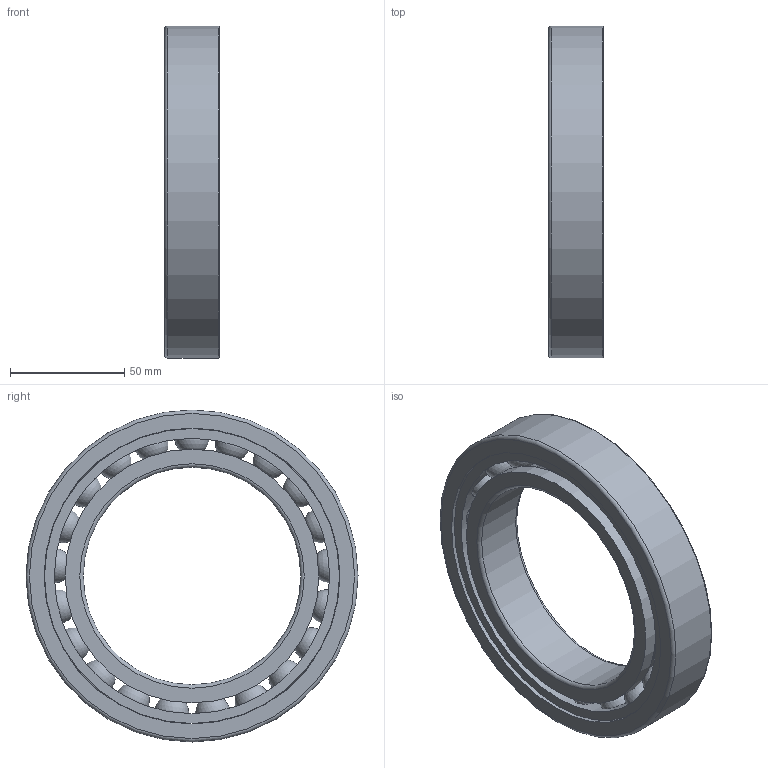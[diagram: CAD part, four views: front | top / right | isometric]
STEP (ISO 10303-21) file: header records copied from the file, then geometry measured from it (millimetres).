
FILE_DESCRIPTION(/* description */ (''),/* implementation_level */ '2;1');
FILE_NAME(/* name */ 'S_6019_TA.step',/* time_stamp */ '2013-03-06T14:43:36+01:00',/* author */ ('Marian'),/* organization */ ('GMN'),/* preprocessor_version */ 'ST-DEVELOPER v11',/* originating_system */ 'SIEMENS UGS NX 6.0',/* authorisation */ '');
FILE_SCHEMA (('CONFIG_CONTROL_DESIGN'));
Length unit declared in the file: millimetre
Products named in the file (1): S_6019_TA
Bounding box: 24 x 145 x 145 mm (x, y, z)
Volume: 170343.4 mm3; surface area: 78593.7 mm2
Topology: 24 solids, 24 shells, 62 faces, 160 edges, 104 vertices
Faces by surface type: cylinder 28, sphere 21, torus 6, plane 6, cone 1
Full cylindrical faces by diameter (mm): 15.281 x21, 95 x1, 110.8 x2, 120.301 x1, 128.8 x1, 129.2 x1, 145 x1
Entity records: 2052 total; most frequent: CARTESIAN_POINT 922, DIRECTION 166, FACE_BOUND 145, EDGE_LOOP 124, ORIENTED_EDGE 124, VERTEX_POINT 83, AXIS2_PLACEMENT_3D 83, EDGE_CURVE 62
